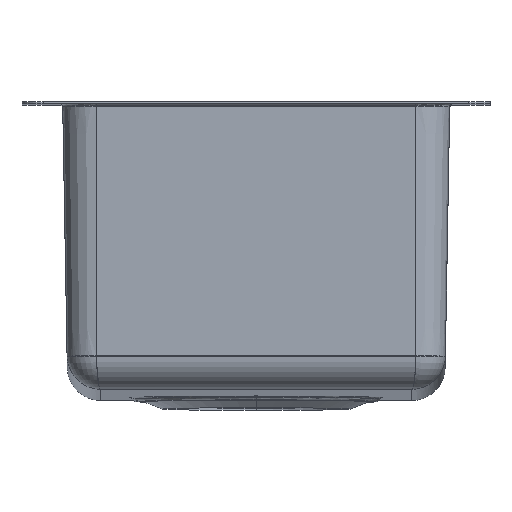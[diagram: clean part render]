
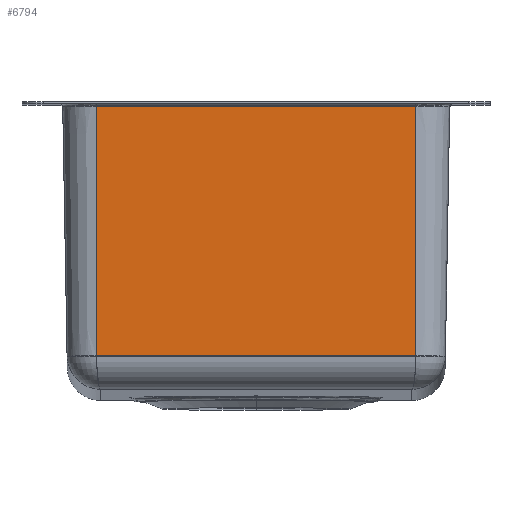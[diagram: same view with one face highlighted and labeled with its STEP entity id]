
A CAD part, top view. The second image highlights one B-rep face of the part: STEP entity #6794.
In plain terms, the highlighted planar face has unit normal (0, -0.018, 1).
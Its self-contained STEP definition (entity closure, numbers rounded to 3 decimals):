
#57 = DIRECTION ( 'NONE',  ( 0., -1., -0.017 ) ) ;
#602 = VECTOR ( 'NONE', #8756, 1000. ) ;
#736 = CARTESIAN_POINT ( 'NONE',  ( -75., 0., 201. ) ) ;
#838 = CARTESIAN_POINT ( 'NONE',  ( -75., -119.668, 198.911 ) ) ;
#841 = CARTESIAN_POINT ( 'NONE',  ( 75., 0., 201. ) ) ;
#1053 = DIRECTION ( 'NONE',  ( 0., -1., -0.017 ) ) ;
#1239 = EDGE_CURVE ( 'NONE', #6158, #6765, #9671, .T. ) ;
#1563 = CARTESIAN_POINT ( 'NONE',  ( 75., -119.668, 198.911 ) ) ;
#1903 = DIRECTION ( 'NONE',  ( -1., 0., 0. ) ) ;
#2207 = CARTESIAN_POINT ( 'NONE',  ( -75., -2.179, 200.962 ) ) ;
#2440 = EDGE_CURVE ( 'NONE', #3367, #9644, #8775, .T. ) ;
#2468 = CARTESIAN_POINT ( 'NONE',  ( 75., -2.179, 200.962 ) ) ;
#3066 = EDGE_CURVE ( 'NONE', #6158, #3367, #4541, .T. ) ;
#3367 = VERTEX_POINT ( 'NONE', #6491 ) ;
#3487 = EDGE_LOOP ( 'NONE', ( #7995, #7106, #9065, #6987 ) ) ;
#4541 = LINE ( 'NONE', #2207, #8539 ) ;
#4620 = FACE_OUTER_BOUND ( 'NONE', #3487, .T. ) ;
#4774 = LINE ( 'NONE', #838, #9370 ) ;
#6158 = VERTEX_POINT ( 'NONE', #2468 ) ;
#6343 = CARTESIAN_POINT ( 'NONE',  ( -75., 0., 201. ) ) ;
#6491 = CARTESIAN_POINT ( 'NONE',  ( -75., -2.179, 200.962 ) ) ;
#6765 = VERTEX_POINT ( 'NONE', #1563 ) ;
#6794 = ADVANCED_FACE ( 'NONE', ( #4620 ), #7927, .T. ) ;
#6861 = EDGE_CURVE ( 'NONE', #9644, #6765, #4774, .T. ) ;
#6987 = ORIENTED_EDGE ( 'NONE', *, *, #3066, .T. ) ;
#7042 = DIRECTION ( 'NONE',  ( 0., -0.017, 1. ) ) ;
#7106 = ORIENTED_EDGE ( 'NONE', *, *, #6861, .T. ) ;
#7143 = DIRECTION ( 'NONE',  ( 1., 0., 0. ) ) ;
#7927 = PLANE ( 'NONE',  #9028 ) ;
#7995 = ORIENTED_EDGE ( 'NONE', *, *, #2440, .T. ) ;
#8539 = VECTOR ( 'NONE', #1903, 1000. ) ;
#8697 = CARTESIAN_POINT ( 'NONE',  ( -75., -119.668, 198.911 ) ) ;
#8756 = DIRECTION ( 'NONE',  ( 0., -1., -0.017 ) ) ;
#8775 = LINE ( 'NONE', #6343, #8865 ) ;
#8865 = VECTOR ( 'NONE', #1053, 1000. ) ;
#9028 = AXIS2_PLACEMENT_3D ( 'NONE', #736, #7042, #57 ) ;
#9065 = ORIENTED_EDGE ( 'NONE', *, *, #1239, .F. ) ;
#9370 = VECTOR ( 'NONE', #7143, 1000. ) ;
#9644 = VERTEX_POINT ( 'NONE', #8697 ) ;
#9671 = LINE ( 'NONE', #841, #602 ) ;
